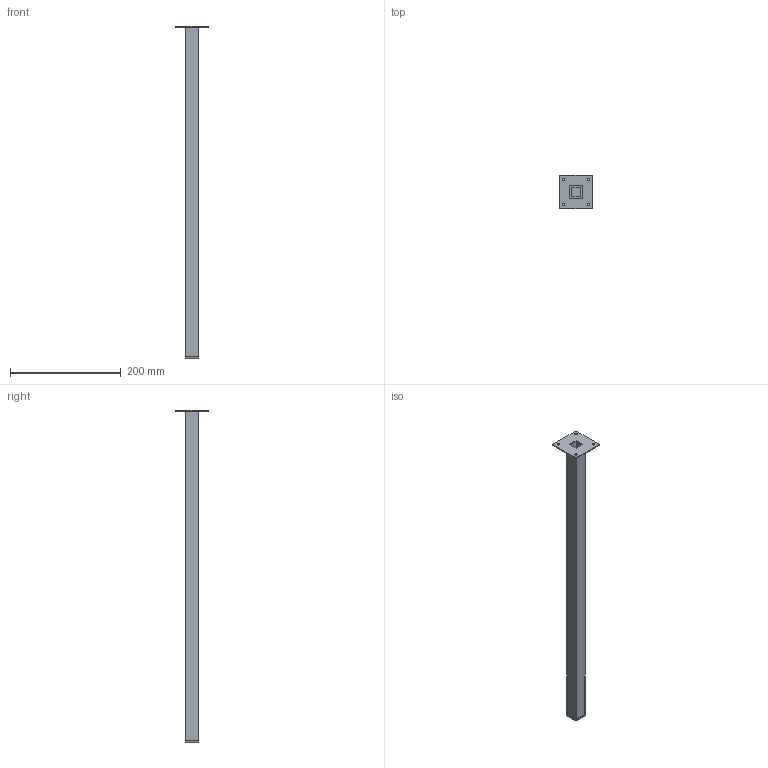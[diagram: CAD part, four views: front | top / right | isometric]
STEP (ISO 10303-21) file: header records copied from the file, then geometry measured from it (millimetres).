
FILE_DESCRIPTION( ( '' ), '1' );
FILE_NAME( 'D:/temp/hettich_stp/hettich/6.5_furniture_legs/table_legs/1381.stp', '2013-02-26T12:27:16', ( '' ), ( '' ), ' ', ' ', ' ' );
FILE_SCHEMA( ( 'automotive_design' ) );
Length unit declared in the file: millimetre
Products named in the file (1): 1
Bounding box: 60 x 60 x 600 mm (x, y, z)
Volume: 63030.4 mm3; surface area: 118198.9 mm2
Topology: 1 solids, 1 shells, 43 faces, 108 edges, 72 vertices
Faces by surface type: plane 31, cylinder 12
Entity records: 2570 total; most frequent: STYLED_ITEM 224, PRESENTATION_STYLE_ASSIGNMENT 224, CARTESIAN_POINT 224, COLOUR_RGB 224, DIRECTION 220, ORIENTED_EDGE 216, EDGE_CURVE 108, CURVE_STYLE 108
